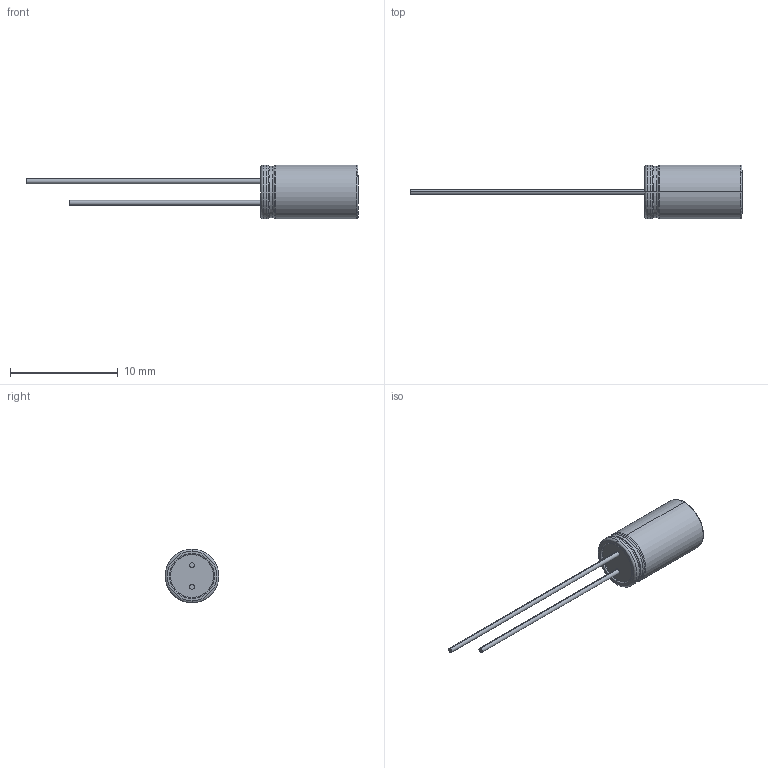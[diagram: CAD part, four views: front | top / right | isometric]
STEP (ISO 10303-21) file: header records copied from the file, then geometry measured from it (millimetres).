
FILE_DESCRIPTION((''),'2;1');
FILE_NAME('POLYMER-RADIAL5X9','2020-06-03T',('xy'),(''),'PRO/ENGINEER BY PARAMETRIC TECHNOLOGY CORPORATION, 2009380','PRO/ENGINEER BY PARAMETRIC TECHNOLOGY CORPORATION, 2009380','');
FILE_SCHEMA(('CONFIG_CONTROL_DESIGN'));
Length unit declared in the file: millimetre
Products named in the file (1): POLYMER-RADIAL5X9
Bounding box: 30.8 x 5 x 5 mm (x, y, z)
Volume: 179.6 mm3; surface area: 237.8 mm2
Topology: 1 solids, 1 shells, 415 faces, 1147 edges, 758 vertices
Faces by surface type: plane 388, cylinder 13, torus 10, cone 4
Entity records: 13006 total; most frequent: CARTESIAN_POINT 2320, ORIENTED_EDGE 2294, DIRECTION 2024, EDGE_CURVE 1147, VECTOR 1100, LINE 1100, VERTEX_POINT 758, AXIS2_PLACEMENT_3D 462
